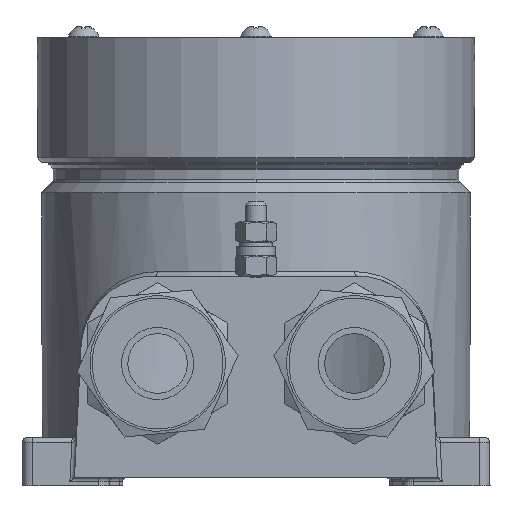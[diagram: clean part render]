
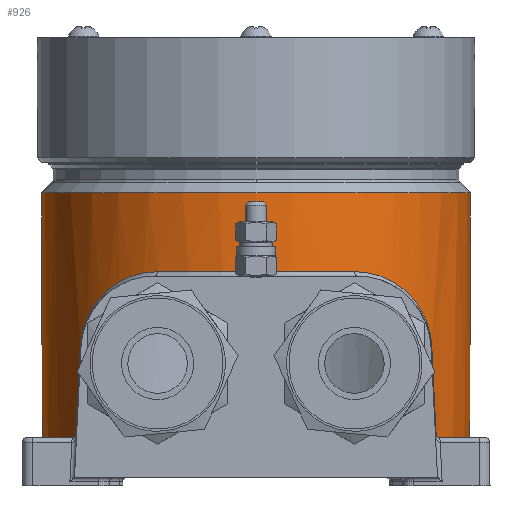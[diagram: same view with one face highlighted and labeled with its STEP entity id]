
A CAD part, left-side view. The second image highlights one B-rep face of the part: STEP entity #926.
In plain terms, the highlighted cylindrical face has radius 49 mm (diameter 98 mm), a full revolution.
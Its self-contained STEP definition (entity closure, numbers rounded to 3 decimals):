
#926=ADVANCED_FACE('',(#16154,#16156),#16158,.T.);
#16154=FACE_BOUND('',#16155,.T.);
#16155=EDGE_LOOP('',(#28500,#28501,#28502,#28503,#28504,#28505,#28506,#28507,#28508,
#28509,#28510));
#16156=FACE_OUTER_BOUND('',#16157,.T.);
#16157=EDGE_LOOP('',(#28511));
#16158=CYLINDRICAL_SURFACE('',#16159,49.);
#16159=AXIS2_PLACEMENT_3D('',#16160,#16161,#16162);
#16160=CARTESIAN_POINT('',(0.,0.,8.));
#16161=DIRECTION('',(0.,0.,1.));
#16162=DIRECTION('',(-1.,0.,0.));
#28500=ORIENTED_EDGE('',*,*,#37085,.F.);
#28501=ORIENTED_EDGE('',*,*,#37086,.T.);
#28502=ORIENTED_EDGE('',*,*,#37087,.F.);
#28503=ORIENTED_EDGE('',*,*,#36857,.F.);
#28504=ORIENTED_EDGE('',*,*,#36972,.F.);
#28505=ORIENTED_EDGE('',*,*,#36971,.F.);
#28506=ORIENTED_EDGE('',*,*,#36968,.F.);
#28507=ORIENTED_EDGE('',*,*,#37088,.F.);
#28508=ORIENTED_EDGE('',*,*,#37089,.T.);
#28509=ORIENTED_EDGE('',*,*,#37090,.F.);
#28510=ORIENTED_EDGE('',*,*,#37091,.T.);
#28511=ORIENTED_EDGE('',*,*,#37092,.T.);
#36857=EDGE_CURVE('',#41352,#41353,#41354,.T.);
#36968=EDGE_CURVE('',#41537,#41538,#41539,.T.);
#36971=EDGE_CURVE('',#41538,#41542,#41543,.F.);
#36972=EDGE_CURVE('',#41542,#41352,#41544,.F.);
#37085=EDGE_CURVE('',#41734,#41735,#41736,.F.);
#37086=EDGE_CURVE('',#41734,#41737,#41738,.T.);
#37087=EDGE_CURVE('',#41353,#41737,#41739,.F.);
#37088=EDGE_CURVE('',#41740,#41537,#41741,.F.);
#37089=EDGE_CURVE('',#41740,#41742,#41743,.T.);
#37090=EDGE_CURVE('',#41744,#41742,#41745,.F.);
#37091=EDGE_CURVE('',#41744,#41735,#41746,.T.);
#37092=EDGE_CURVE('',#41747,#41747,#41748,.F.);
#41352=VERTEX_POINT('',#49446);
#41353=VERTEX_POINT('',#49447);
#41354=B_SPLINE_CURVE_WITH_KNOTS('',3,
(#49448,#49449,#49450,#49451,#49452,#49453,#49454,#49455,#49456,#49457,#49458,#49459,
#49460,#49461,#49462,#49463,#49464,#49465,#49466,#49467,#49468),
.UNSPECIFIED.,.F.,.F.,
(4,1,1,1,1,1,1,1,1,1,1,1,1,1,1,1,1,1,4),
(0.,0.091,0.177,0.256,0.326,0.392,
0.455,0.516,0.573,0.628,0.678,
0.724,0.769,0.814,0.856,0.896,
0.938,0.972,1.),
.UNSPECIFIED.);
#41537=VERTEX_POINT('',#50370);
#41538=VERTEX_POINT('',#50371);
#41539=B_SPLINE_CURVE_WITH_KNOTS('',3,
(#50372,#50373,#50374,#50375,#50376,#50377,#50378,#50379,#50380,#50381,#50382,#50383,
#50384,#50385,#50386,#50387,#50388,#50389,#50390,#50391,#50392,#50393,#50394,#50395,
#50396,#50397,#50398),
.UNSPECIFIED.,.F.,.F.,
(4,1,1,1,1,1,1,1,1,1,1,1,1,1,1,1,1,1,1,1,1,1,1,1,4),
(0.,0.009,0.018,0.026,0.034,
0.045,0.061,0.084,0.114,0.152,
0.192,0.237,0.283,0.332,0.386,
0.442,0.504,0.569,0.637,0.708,
0.779,0.846,0.919,0.969,1.),
.UNSPECIFIED.);
#41542=VERTEX_POINT('',#50410);
#41543=CIRCLE('',#50411,49.);
#41544=CIRCLE('',#50415,49.);
#41734=VERTEX_POINT('',#51106);
#41735=VERTEX_POINT('',#51107);
#41736=CIRCLE('',#51108,49.);
#41737=VERTEX_POINT('',#51112);
#41738=CIRCLE('',#51113,49.);
#41739=(BOUNDED_CURVE()B_SPLINE_CURVE(3,
(#51117,#51118,#51119,#51120),
.UNSPECIFIED.,.F.,.F.)B_SPLINE_CURVE_WITH_KNOTS((4,4),
(0.,1.),
.UNSPECIFIED.)CURVE()GEOMETRIC_REPRESENTATION_ITEM()RATIONAL_B_SPLINE_CURVE((1.,
1.,1.,1.))REPRESENTATION_ITEM(''));
#41740=VERTEX_POINT('',#51121);
#41741=(BOUNDED_CURVE()B_SPLINE_CURVE(3,
(#51122,#51123,#51124,#51125),
.UNSPECIFIED.,.F.,.F.)B_SPLINE_CURVE_WITH_KNOTS((4,4),
(0.,1.),
.UNSPECIFIED.)CURVE()GEOMETRIC_REPRESENTATION_ITEM()RATIONAL_B_SPLINE_CURVE((1.,
1.,1.,1.))REPRESENTATION_ITEM(''));
#41742=VERTEX_POINT('',#51126);
#41743=CIRCLE('',#51127,49.);
#41744=VERTEX_POINT('',#51131);
#41745=CIRCLE('',#51132,49.);
#41746=CIRCLE('',#51136,49.);
#41747=VERTEX_POINT('',#51140);
#41748=CIRCLE('',#51141,49.);
#49446=CARTESIAN_POINT('',(-43.493,22.568,47.));
#49447=CARTESIAN_POINT('',(-28.037,40.186,29.899));
#49448=CARTESIAN_POINT('',(-43.493,22.568,47.));
#49449=CARTESIAN_POINT('',(-43.054,23.416,47.));
#49450=CARTESIAN_POINT('',(-42.151,25.037,46.879));
#49451=CARTESIAN_POINT('',(-40.74,27.264,46.397));
#49452=CARTESIAN_POINT('',(-39.377,29.19,45.722));
#49453=CARTESIAN_POINT('',(-38.089,30.846,44.927));
#49454=CARTESIAN_POINT('',(-36.872,32.289,44.051));
#49455=CARTESIAN_POINT('',(-35.702,33.576,43.095));
#49456=CARTESIAN_POINT('',(-34.586,34.721,42.076));
#49457=CARTESIAN_POINT('',(-33.534,35.737,41.006));
#49458=CARTESIAN_POINT('',(-32.569,36.617,39.915));
#49459=CARTESIAN_POINT('',(-31.705,37.365,38.827));
#49460=CARTESIAN_POINT('',(-30.93,38.009,37.734));
#49461=CARTESIAN_POINT('',(-30.23,38.566,36.618));
#49462=CARTESIAN_POINT('',(-29.605,39.048,35.461));
#49463=CARTESIAN_POINT('',(-29.076,39.443,34.293));
#49464=CARTESIAN_POINT('',(-28.639,39.76,33.094));
#49465=CARTESIAN_POINT('',(-28.322,39.986,31.927));
#49466=CARTESIAN_POINT('',(-28.127,40.124,30.85));
#49467=CARTESIAN_POINT('',(-28.057,40.172,30.193));
#49468=CARTESIAN_POINT('',(-28.037,40.186,29.899));
#50370=CARTESIAN_POINT('',(-28.037,-40.186,29.899));
#50371=CARTESIAN_POINT('',(-43.493,-22.568,47.));
#50372=CARTESIAN_POINT('',(-28.037,-40.186,29.899));
#50373=CARTESIAN_POINT('',(-28.047,-40.179,29.999));
#50374=CARTESIAN_POINT('',(-28.064,-40.167,30.187));
#50375=CARTESIAN_POINT('',(-28.09,-40.149,30.458));
#50376=CARTESIAN_POINT('',(-28.119,-40.129,30.719));
#50377=CARTESIAN_POINT('',(-28.161,-40.099,31.006));
#50378=CARTESIAN_POINT('',(-28.222,-40.056,31.369));
#50379=CARTESIAN_POINT('',(-28.325,-39.984,31.883));
#50380=CARTESIAN_POINT('',(-28.497,-39.862,32.583));
#50381=CARTESIAN_POINT('',(-28.776,-39.661,33.487));
#50382=CARTESIAN_POINT('',(-29.175,-39.369,34.525));
#50383=CARTESIAN_POINT('',(-29.697,-38.978,35.642));
#50384=CARTESIAN_POINT('',(-30.326,-38.491,36.781));
#50385=CARTESIAN_POINT('',(-31.054,-37.908,37.92));
#50386=CARTESIAN_POINT('',(-31.881,-37.216,39.06));
#50387=CARTESIAN_POINT('',(-32.802,-36.409,40.191));
#50388=CARTESIAN_POINT('',(-33.828,-35.46,41.318));
#50389=CARTESIAN_POINT('',(-34.946,-34.361,42.419));
#50390=CARTESIAN_POINT('',(-36.15,-33.096,43.477));
#50391=CARTESIAN_POINT('',(-37.405,-31.673,44.451));
#50392=CARTESIAN_POINT('',(-38.679,-30.106,45.309));
#50393=CARTESIAN_POINT('',(-39.916,-28.446,46.005));
#50394=CARTESIAN_POINT('',(-41.124,-26.672,46.54));
#50395=CARTESIAN_POINT('',(-42.158,-24.999,46.856));
#50396=CARTESIAN_POINT('',(-42.947,-23.603,46.981));
#50397=CARTESIAN_POINT('',(-43.344,-22.855,47.));
#50398=CARTESIAN_POINT('',(-43.493,-22.568,47.));
#50410=CARTESIAN_POINT('',(-49.,0.,47.));
#50411=AXIS2_PLACEMENT_3D('',#50412,#50413,#50414);
#50412=CARTESIAN_POINT('',(0.,0.,47.));
#50413=DIRECTION('',(0.,0.,1.));
#50414=DIRECTION('',(-1.,0.,0.));
#50415=AXIS2_PLACEMENT_3D('',#50416,#50417,#50418);
#50416=CARTESIAN_POINT('',(0.,0.,47.));
#50417=DIRECTION('',(0.,0.,1.));
#50418=DIRECTION('',(-0.888,0.461,0.));
#51106=CARTESIAN_POINT('',(27.695,40.423,9.));
#51107=CARTESIAN_POINT('',(40.423,27.695,9.));
#51108=AXIS2_PLACEMENT_3D('',#51109,#51110,#51111);
#51109=CARTESIAN_POINT('',(0.,0.,9.));
#51110=DIRECTION('',(0.,0.,1.));
#51111=DIRECTION('',(0.825,0.565,0.));
#51112=CARTESIAN_POINT('',(-26.509,41.21,9.));
#51113=AXIS2_PLACEMENT_3D('',#51114,#51115,#51116);
#51114=CARTESIAN_POINT('',(0.,0.,9.));
#51115=DIRECTION('',(0.,0.,1.));
#51116=DIRECTION('',(0.565,0.825,0.));
#51117=CARTESIAN_POINT('',(-26.509,41.21,9.));
#51118=CARTESIAN_POINT('',(-27.025,40.878,15.771));
#51119=CARTESIAN_POINT('',(-27.534,40.537,22.738));
#51120=CARTESIAN_POINT('',(-28.037,40.186,29.899));
#51121=CARTESIAN_POINT('',(-26.509,-41.21,9.));
#51122=CARTESIAN_POINT('',(-28.037,-40.186,29.899));
#51123=CARTESIAN_POINT('',(-27.534,-40.537,22.738));
#51124=CARTESIAN_POINT('',(-27.025,-40.878,15.771));
#51125=CARTESIAN_POINT('',(-26.509,-41.21,9.));
#51126=CARTESIAN_POINT('',(27.695,-40.423,9.));
#51127=AXIS2_PLACEMENT_3D('',#51128,#51129,#51130);
#51128=CARTESIAN_POINT('',(0.,0.,9.));
#51129=DIRECTION('',(0.,0.,1.));
#51130=DIRECTION('',(-0.541,-0.841,0.));
#51131=CARTESIAN_POINT('',(40.423,-27.695,9.));
#51132=AXIS2_PLACEMENT_3D('',#51133,#51134,#51135);
#51133=CARTESIAN_POINT('',(0.,0.,9.));
#51134=DIRECTION('',(0.,0.,1.));
#51135=DIRECTION('',(0.565,-0.825,0.));
#51136=AXIS2_PLACEMENT_3D('',#51137,#51138,#51139);
#51137=CARTESIAN_POINT('',(0.,0.,9.));
#51138=DIRECTION('',(0.,0.,1.));
#51139=DIRECTION('',(0.825,-0.565,0.));
#51140=CARTESIAN_POINT('',(-49.,0.,65.));
#51141=AXIS2_PLACEMENT_3D('',#51142,#51143,#51144);
#51142=CARTESIAN_POINT('',(0.,0.,65.));
#51143=DIRECTION('',(0.,0.,1.));
#51144=DIRECTION('',(-1.,0.,0.));
